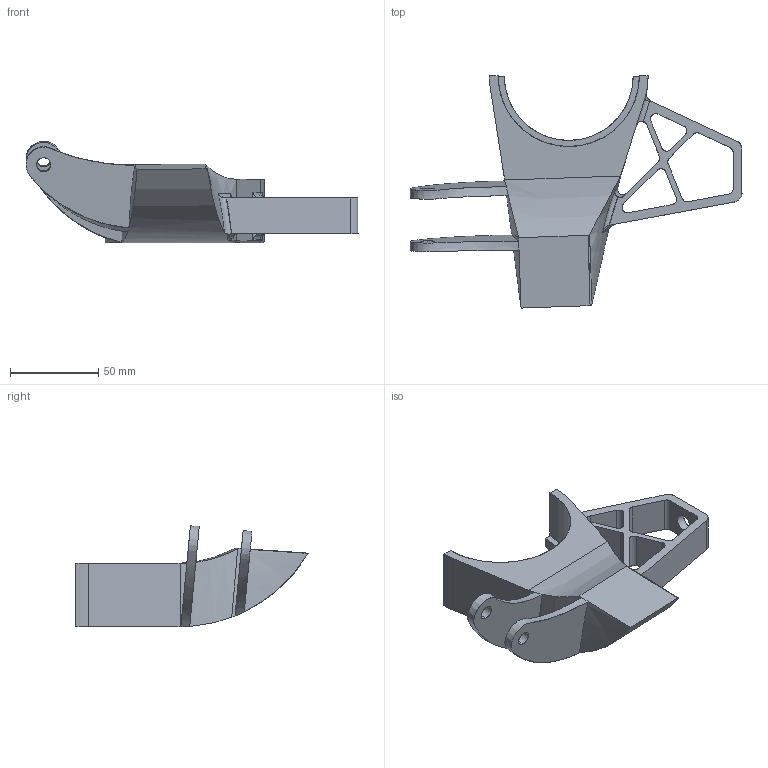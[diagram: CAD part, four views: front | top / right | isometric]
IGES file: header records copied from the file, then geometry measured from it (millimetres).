
Start section: SolidWorks IGES file using analytic representation for surfaces
Global section: file name: C:\Users\jakob\Desktop\Radtraeger_vorne_rechts_v2.IGS; native system: SolidWorks 2011; preprocessor: SolidWorks 2011; author: jakob; date: 120211.214550; units: millimetre
Bounding box: 188.2 x 131.58 x 57.4 mm (x, y, z)
Surface area: 46278.1 mm2 (no closed solid volume)
Topology: 0 solids, 0 shells, 87 faces, 1421 edges, 1419 vertices
Faces by surface type: bspline 53, revolution 34
